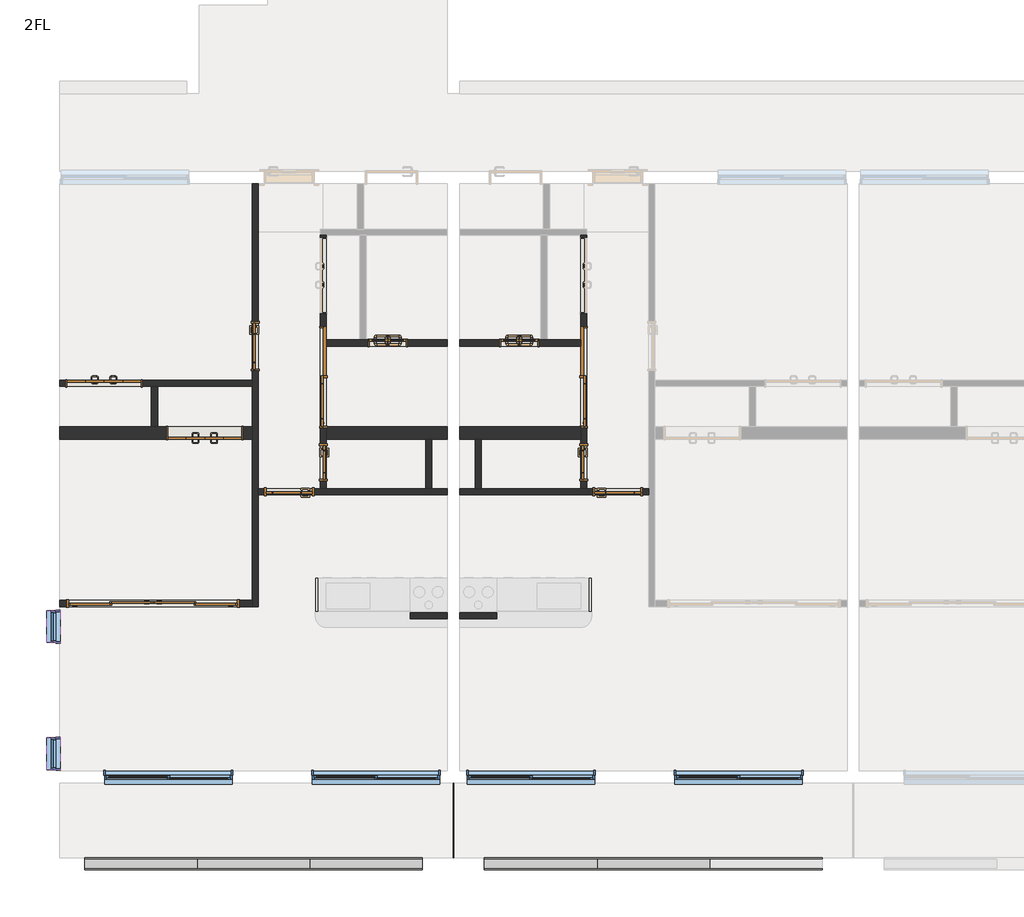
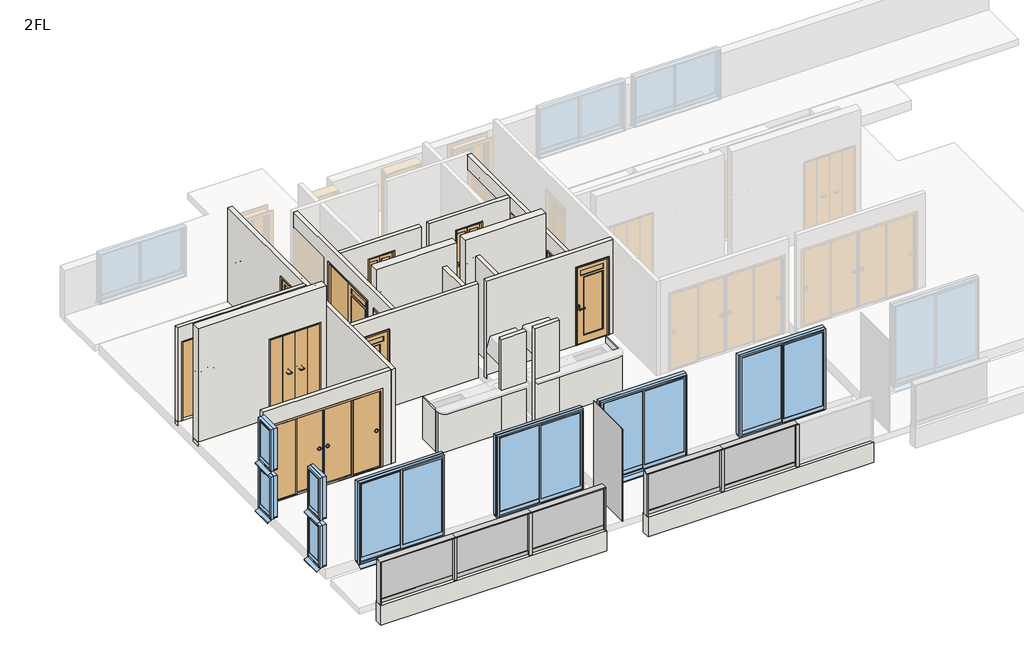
# One storey, part 1 of 3: 23 walls, 12 doors, 12 members, 8 windows, 6 plates.
"""IFC4 building model written with IfcOpenShell, lengths in millimetres."""

from ifc_helpers import new_model, si_unit, frame, origin, place, context, project, spatial, polyline, outline, extrude, faceted_brep, transform, mapped, element, save
from components import w1200h2000_6a144d60, w1200h2000_98cacc9b, w1600h2000_4c3c234a, w1600h2000_ca690e72, w2800h2000_670b855b, w600h2000_7f2747f4, w600h2000_6a266bef, w600h2000_94bb9c3c, w600h2000_8ea70a65, w800h2000_13e9f519, w800h2000_ccb03061, member_25x150_3f8205e2, member_25x150_f694351b, member_70x150_851c8a9b, plate_9f48129f, plate_365944b3, plate_cef4847d, window_2000x2000_f1ff98da, window_450x1000_e0a5e2da

model = new_model("IFC4")

# Units and contexts
model_context = context("Model", 3, world=origin())
ifc_project = project(units=[si_unit("LENGTHUNIT", "METRE", prefix="MILLI")], contexts=[model_context])

# Site, building, storey
site = spatial("IfcSite", under=ifc_project)
building = spatial("IfcBuilding", under=site)
storey = spatial("IfcBuildingStorey", under=building, Name="2FL", Elevation=4000.0)

# Doors
placement = place(None, origin())
w1200h2000_shape = w1200h2000_6a144d60(model_context)
element("IfcDoor", 1, ObjectType="木製折戸 : w1200h2000", at=placement, inside=storey, context=model_context, shape_type="MappedRepresentation", body=[
    mapped(w1200h2000_shape, transform((-10366.2187246, -9020.1171638, 4100.0), x_axis=(1.0, 0.0, 0.0), y_axis=(0.0, 1.0, 0.0), z_axis=(0.0, 0.0, 1.0))),
])
w1200h2000_2_shape = w1200h2000_98cacc9b(model_context)
element("IfcDoor", 2, ObjectType="木製折戸 : w1200h2000", at=placement, inside=storey, context=model_context, shape_type="MappedRepresentation", body=[
    mapped(w1200h2000_2_shape, transform((-8741.2187246, -9820.1171638, 4100.0), x_axis=(-1.0, 0.0, 0.0), y_axis=(0.0, -1.0, 0.0), z_axis=(0.0, 0.0, 1.0))),
])
w1600h2000_shape = w1600h2000_4c3c234a(model_context)
element("IfcDoor", 3, ObjectType="片引戸CL2017 : w1600h2000", at=placement, inside=storey, context=model_context, shape_type="MappedRepresentation", body=[
    mapped(w1600h2000_shape, transform((-6828.7187246, -8920.1171638, 4100.0), x_axis=(0.0, -1.0, 0.0), y_axis=(1.0, 0.0, 0.0), z_axis=(0.0, 0.0, 1.0))),
])
w1600h2000_2_shape = w1600h2000_ca690e72(model_context)
element("IfcDoor", 4, ObjectType="片引戸CL2017 : w1600h2000", at=placement, inside=storey, context=model_context, shape_type="MappedRepresentation", body=[
    mapped(w1600h2000_2_shape, transform((-2628.7187246, -8920.1171638, 4100.0), x_axis=(0.0, -1.0, 0.0), y_axis=(1.0, 0.0, 0.0), z_axis=(0.0, 0.0, 1.0))),
])
w2800h2000_shape = w2800h2000_670b855b(model_context)
element("IfcDoor", 5, ObjectType="引違い 4 枚 2 溝_襖 : w2800h2000", at=placement, inside=storey, context=model_context, shape_type="MappedRepresentation", body=[
    mapped(w2800h2000_shape, transform((-9584.2542286, -12570.1171638, 4100.0), x_axis=(-1.0, 0.0, 0.0), y_axis=(0.0, -1.0, 0.0), z_axis=(0.0, 0.0, 1.0))),
])
w600h2000_shape = w600h2000_7f2747f4(model_context)
element("IfcDoor", 6, ObjectType="片開戸CL2058 : w600h2000", at=placement, inside=storey, context=model_context, shape_type="MappedRepresentation", body=[
    mapped(w600h2000_shape, transform((-6828.7187246, -10295.1171638, 4100.0), x_axis=(0.0, -1.0, 0.0), y_axis=(1.0, 0.0, 0.0), z_axis=(0.0, 0.0, 1.0))),
])
w600h2000_2_shape = w600h2000_6a266bef(model_context)
element("IfcDoor", 7, ObjectType="浴室折戸 : w600h2000", at=placement, inside=storey, context=model_context, shape_type="MappedRepresentation", body=[
    mapped(w600h2000_2_shape, transform((-5788.7187246, -8370.1171638, 4100.0), x_axis=(1.0, 0.0, 0.0), y_axis=(0.0, 1.0, 0.0), z_axis=(0.0, 0.0, 1.0))),
])
w600h2000_3_shape = w600h2000_94bb9c3c(model_context)
element("IfcDoor", 8, ObjectType="浴室折戸 : w600h2000", at=placement, inside=storey, context=model_context, shape_type="MappedRepresentation", body=[
    mapped(w600h2000_3_shape, transform((-3668.7187246, -8370.1171638, 4100.0), x_axis=(-1.0, 0.0, 0.0), y_axis=(0.0, -1.0, 0.0), z_axis=(0.0, 0.0, 1.0))),
])
w600h2000_4_shape = w600h2000_8ea70a65(model_context)
element("IfcDoor", 9, ObjectType="片開戸CL2058 : w600h2000", at=placement, inside=storey, context=model_context, shape_type="MappedRepresentation", body=[
    mapped(w600h2000_4_shape, transform((-2628.7187246, -10295.1171638, 4100.0), x_axis=(0.0, -1.0, 0.0), y_axis=(1.0, 0.0, 0.0), z_axis=(0.0, 0.0, 1.0))),
])
w800h2000_shape = w800h2000_13e9f519(model_context)
element("IfcDoor", 10, ObjectType="片開戸CL2058 : w800h2000", at=placement, inside=storey, context=model_context, shape_type="MappedRepresentation", body=[
    mapped(w800h2000_shape, transform((-7928.7187246, -8420.1171638, 4100.0), x_axis=(0.0, -1.0, 0.0), y_axis=(1.0, 0.0, 0.0), z_axis=(0.0, 0.0, 1.0))),
])
element("IfcDoor", 11, ObjectType="片開戸CL2058 : w800h2000", at=placement, inside=storey, context=model_context, shape_type="MappedRepresentation", body=[
    mapped(w800h2000_shape, transform((-2078.7187246, -10770.1171638, 4100.0), x_axis=(1.0, 0.0, 0.0), y_axis=(0.0, 1.0, 0.0), z_axis=(0.0, 0.0, 1.0))),
])
w800h2000_2_shape = w800h2000_ccb03061(model_context)
element("IfcDoor", 12, ObjectType="片開戸CL2058 : w800h2000", at=placement, inside=storey, context=model_context, shape_type="MappedRepresentation", body=[
    mapped(w800h2000_2_shape, transform((-7378.7187246, -10770.1171638, 4100.0), x_axis=(-1.0, 0.0, 0.0), y_axis=(0.0, -1.0, 0.0), z_axis=(0.0, 0.0, 1.0))),
])

# Members
member_25x150_shape = member_25x150_3f8205e2(model_context)
element("IfcMember", 13, ObjectType="長方形のマリオン : 25x150", at=placement, inside=storey, context=model_context, shape_type="MappedRepresentation", body=[
    mapped(member_25x150_shape, transform((-5228.7187246, -16770.1171638, 4000.0), x_axis=(1.0, 0.0, 0.0), y_axis=(0.0, -1.0, 0.0), z_axis=(0.0, 0.0, -1.0))),
])
element("IfcMember", 14, ObjectType="長方形のマリオン : 25x150", at=placement, inside=storey, context=model_context, shape_type="MappedRepresentation", body=[
    mapped(member_25x150_shape, transform((-10678.7187246, -16770.1171638, 5075.0), x_axis=(-1.0, 0.0, 0.0), y_axis=(0.0, -1.0, 0.0), z_axis=(0.0, 0.0, 1.0))),
])
element("IfcMember", 15, ObjectType="長方形のマリオン : 25x150", at=placement, inside=storey, context=model_context, shape_type="MappedRepresentation", body=[
    mapped(member_25x150_shape, transform((-4228.7187246, -16770.1171638, 5075.0), x_axis=(-1.0, 0.0, 0.0), y_axis=(0.0, -1.0, 0.0), z_axis=(0.0, 0.0, 1.0))),
])
member_25x150_2_shape = member_25x150_f694351b(model_context)
element("IfcMember", 16, ObjectType="長方形のマリオン : 25x150", at=placement, inside=storey, context=model_context, shape_type="MappedRepresentation", body=[
    mapped(member_25x150_2_shape, transform((-5228.7187246, -16770.1171638, 5100.0), x_axis=(0.0, 0.0, 1.0), y_axis=(0.0, -1.0, 0.0), z_axis=(1.0, 0.0, 0.0))),
])
element("IfcMember", 17, ObjectType="長方形のマリオン : 25x150", at=placement, inside=storey, context=model_context, shape_type="MappedRepresentation", body=[
    mapped(member_25x150_2_shape, transform((-8862.052058, -16770.1171638, 5100.0), x_axis=(0.0, 0.0, 1.0), y_axis=(0.0, -1.0, 0.0), z_axis=(1.0, 0.0, 0.0))),
])
element("IfcMember", 18, ObjectType="長方形のマリオン : 25x150", at=placement, inside=storey, context=model_context, shape_type="MappedRepresentation", body=[
    mapped(member_25x150_2_shape, transform((-2412.052058, -16770.1171638, 5100.0), x_axis=(0.0, 0.0, 1.0), y_axis=(0.0, -1.0, 0.0), z_axis=(1.0, 0.0, 0.0))),
])
element("IfcMember", 19, ObjectType="長方形のマリオン : 25x150", at=placement, inside=storey, context=model_context, shape_type="MappedRepresentation", body=[
    mapped(member_25x150_2_shape, transform((-7045.3853913, -16770.1171638, 5100.0), x_axis=(0.0, 0.0, 1.0), y_axis=(0.0, -1.0, 0.0), z_axis=(1.0, 0.0, 0.0))),
])
element("IfcMember", 20, ObjectType="長方形のマリオン : 25x150", at=placement, inside=storey, context=model_context, shape_type="MappedRepresentation", body=[
    mapped(member_25x150_2_shape, transform((-595.3853913, -16770.1171638, 5100.0), x_axis=(0.0, 0.0, 1.0), y_axis=(0.0, -1.0, 0.0), z_axis=(1.0, 0.0, 0.0))),
])
member_70x150_shape = member_70x150_851c8a9b(model_context)
element("IfcMember", 21, ObjectType="長方形のマリオン : 70x150", at=placement, inside=storey, context=model_context, shape_type="MappedRepresentation", body=[
    mapped(member_70x150_shape, transform((-8862.052058, -16770.1171638, 4000.0), x_axis=(1.0, 0.0, 0.0), y_axis=(0.0, -1.0, 0.0), z_axis=(0.0, 0.0, -1.0))),
])
element("IfcMember", 22, ObjectType="長方形のマリオン : 70x150", at=placement, inside=storey, context=model_context, shape_type="MappedRepresentation", body=[
    mapped(member_70x150_shape, transform((-7045.3853913, -16770.1171638, 4000.0), x_axis=(1.0, 0.0, 0.0), y_axis=(0.0, -1.0, 0.0), z_axis=(0.0, 0.0, -1.0))),
])
element("IfcMember", 23, ObjectType="長方形のマリオン : 70x150", at=placement, inside=storey, context=model_context, shape_type="MappedRepresentation", body=[
    mapped(member_70x150_shape, transform((-2412.052058, -16770.1171638, 4000.0), x_axis=(1.0, 0.0, 0.0), y_axis=(0.0, -1.0, 0.0), z_axis=(0.0, 0.0, -1.0))),
])
element("IfcMember", 24, ObjectType="長方形のマリオン : 70x150", at=placement, inside=storey, context=model_context, shape_type="MappedRepresentation", body=[
    mapped(member_70x150_shape, transform((-595.3853913, -16770.1171638, 4000.0), x_axis=(1.0, 0.0, 0.0), y_axis=(0.0, -1.0, 0.0), z_axis=(0.0, 0.0, -1.0))),
])

# Plates
plate_shape = plate_9f48129f(model_context)
element("IfcPlate", 25, ObjectType="r パネル FIX 下框付 : 框 H100", at=placement, inside=storey, context=model_context, shape_type="MappedRepresentation", body=[
    mapped(plate_shape, transform((-9775.3853913, -16770.1171638, 4000.0), x_axis=(1.0, 0.0, 0.0), y_axis=(0.0, 1.0, 0.0), z_axis=(0.0, 0.0, 1.0))),
])
element("IfcPlate", 26, ObjectType="r パネル FIX 下框付 : 框 H100", at=placement, inside=storey, context=model_context, shape_type="MappedRepresentation", body=[
    mapped(plate_shape, transform((-6132.052058, -16770.1171638, 4000.0), x_axis=(1.0, 0.0, 0.0), y_axis=(0.0, 1.0, 0.0), z_axis=(0.0, 0.0, 1.0))),
])
element("IfcPlate", 27, ObjectType="r パネル FIX 下框付 : 框 H100", at=placement, inside=storey, context=model_context, shape_type="MappedRepresentation", body=[
    mapped(plate_shape, transform((-3325.3853913, -16770.1171638, 4000.0), x_axis=(1.0, 0.0, 0.0), y_axis=(0.0, 1.0, 0.0), z_axis=(0.0, 0.0, 1.0))),
])
plate_2_shape = plate_365944b3(model_context)
element("IfcPlate", 28, ObjectType="r パネル FIX 下框付 : 框 H100", at=placement, inside=storey, context=model_context, shape_type="MappedRepresentation", body=[
    mapped(plate_2_shape, transform((-7953.7187246, -16770.1171638, 4000.0), x_axis=(1.0, 0.0, 0.0), y_axis=(0.0, 1.0, 0.0), z_axis=(0.0, 0.0, 1.0))),
])
element("IfcPlate", 29, ObjectType="r パネル FIX 下框付 : 框 H100", at=placement, inside=storey, context=model_context, shape_type="MappedRepresentation", body=[
    mapped(plate_2_shape, transform((-1503.7187246, -16770.1171638, 4000.0), x_axis=(1.0, 0.0, 0.0), y_axis=(0.0, 1.0, 0.0), z_axis=(0.0, 0.0, 1.0))),
])
plate_3_shape = plate_cef4847d(model_context)
element("IfcPlate", 30, ObjectType="システム パネル : 標準", at=placement, inside=storey, context=model_context, shape_type="MappedRepresentation", body=[
    mapped(plate_3_shape, transform((-4728.7187246, -16070.1171638, 3950.0), x_axis=(0.0, -1.0, 0.0), y_axis=(1.0, 0.0, 0.0), z_axis=(0.0, 0.0, 1.0))),
])

# Walls
element("IfcWall", 31, ObjectType="(R)RC200", at=placement, inside=storey, context=model_context, shape_type="Brep", body=[
    faceted_brep([(-11078.7187246, -9920.1171638, 4000.0), (-7978.7187246, -9920.1171638, 4000.0), (-7978.7187246, -9920.1171638, 7000.0), (-11078.7187246, -9920.1171638, 7000.0), (-9361.2187246, -9920.1171638, 6120.0), (-8121.2187246, -9920.1171638, 6120.0), (-8121.2187246, -9920.1171638, 4100.0), (-9361.2187246, -9920.1171638, 4100.0), (-11078.7187246, -9720.1171638, 4000.0), (-11078.7187246, -9720.1171638, 7000.0), (-7978.7187246, -9720.1171638, 7000.0), (-7978.7187246, -9720.1171638, 4000.0), (-9503.7187246, -9720.1171638, 4000.0), (-9603.7187246, -9720.1171638, 4000.0), (-9361.2187246, -9720.1171638, 6120.0), (-9361.2187246, -9720.1171638, 4100.0), (-8121.2187246, -9720.1171638, 4100.0), (-8121.2187246, -9720.1171638, 6120.0)], [[[0, 1, 2, 3], [4, 5, 6, 7]], [[8, 9, 10, 11, 12, 13], [14, 15, 16, 17]], [[1, 0, 8, 13, 12, 11]], [[3, 2, 10, 9]], [[2, 1, 11, 10]], [[15, 14, 4, 7]], [[16, 15, 7, 6]], [[17, 16, 6, 5]], [[14, 17, 5, 4]], [[0, 3, 9, 8]]]),
])
element("IfcWall", 32, ObjectType="(R)RC200", at=placement, inside=storey, context=model_context, shape_type="Brep", body=[
    faceted_brep([(-6778.7187246, -9920.1171638, 4000.0), (-5178.7187246, -9920.1171638, 4000.0), (-5078.7187246, -9920.1171638, 4000.0), (-4828.7187246, -9920.1171638, 4000.0), (-4828.7187246, -9920.1171638, 7000.0), (-6778.7187246, -9920.1171638, 7000.0), (-6778.7187246, -9720.1171638, 4000.0), (-6778.7187246, -9720.1171638, 7000.0), (-4828.7187246, -9720.1171638, 7000.0), (-4828.7187246, -9720.1171638, 4000.0)], [[[0, 1, 2, 3, 4, 5]], [[6, 7, 8, 9]], [[3, 2, 1, 0, 6, 9]], [[5, 4, 8, 7]], [[0, 5, 7, 6]], [[4, 3, 9, 8]]]),
])
element("IfcWall", 33, ObjectType="(R)RC200", at=placement, inside=storey, context=model_context, shape_type="Brep", body=[
    faceted_brep([(-2678.7187246, -9720.1171638, 4000.0), (-4628.7187246, -9720.1171638, 4000.0), (-4628.7187246, -9720.1171638, 7000.0), (-2678.7187246, -9720.1171638, 7000.0), (-2678.7187246, -9920.1171638, 4000.0), (-2678.7187246, -9920.1171638, 7000.0), (-4628.7187246, -9920.1171638, 7000.0), (-4628.7187246, -9920.1171638, 4000.0), (-4378.7187246, -9920.1171638, 4000.0), (-4278.7187246, -9920.1171638, 4000.0)], [[[0, 1, 2, 3]], [[4, 5, 6, 7, 8, 9]], [[1, 0, 4, 9, 8, 7]], [[3, 2, 6, 5]], [[0, 3, 5, 4]], [[2, 1, 7, 6]]]),
])
element("IfcWall", 34, ObjectType="(R)RC200", at=placement, inside=storey, context=model_context, shape_type="SweptSolid", body=[
    extrude(outline(polyline([(-5228.7187246, -16870.1171638), (-10678.7187246, -16870.1171638), (-10678.7187246, -16670.1171638), (-5228.7187246, -16670.1171638), (-5228.7187246, -16870.1171638)])), frame((0.0, 0.0, 3500.0), z_axis=(0.0, 0.0, 1.0), x_axis=(1.0, 0.0, 0.0)), (0.0, 0.0, 1.0), 500.0),
])
element("IfcWall", 35, ObjectType="(R)RC200", at=placement, inside=storey, context=model_context, shape_type="SweptSolid", body=[
    extrude(outline(polyline([(1221.2812754, -16870.1171638), (-4228.7187246, -16870.1171638), (-4228.7187246, -16670.1171638), (1221.2812754, -16670.1171638), (1221.2812754, -16870.1171638)])), frame((0.0, 0.0, 3500.0), z_axis=(0.0, 0.0, 1.0), x_axis=(1.0, 0.0, 0.0)), (0.0, 0.0, 1.0), 500.0),
])
element("IfcWall", 36, ObjectType="(F)30", at=placement, inside=storey, context=model_context, shape_type="SweptSolid", body=[
    extrude(outline(polyline([(-6951.1124404, -12720.1171638), (-6951.1124404, -12165.1171638), (-6921.1124404, -12165.1171638), (-6921.1124404, -12720.1171638), (-6951.1124404, -12720.1171638)])), frame((0.0, 0.0, 4100.0), z_axis=(0.0, 0.0, 1.0), x_axis=(1.0, 0.0, 0.0)), (0.0, 0.0, 1.0), 1060.0),
])
element("IfcWall", 37, ObjectType="(F)30", at=placement, inside=storey, context=model_context, shape_type="SweptSolid", body=[
    extrude(outline(polyline([(-2536.3250089, -12720.1171638), (-2536.3250089, -12165.1171638), (-2506.3250089, -12165.1171638), (-2506.3250089, -12720.1171638), (-2536.3250089, -12720.1171638)])), frame((0.0, 0.0, 4100.0), z_axis=(0.0, 0.0, 1.0), x_axis=(1.0, 0.0, 0.0)), (0.0, 0.0, 1.0), 1060.0),
])
element("IfcWall", 38, ObjectType="(L1)LGS100", at=placement, inside=storey, context=model_context, shape_type="Brep", body=[
    faceted_brep([(-11078.7187246, -9070.1171638, 4000.0), (-9603.7187246, -9070.1171638, 4000.0), (-9503.7187246, -9070.1171638, 4000.0), (-7978.7187246, -9070.1171638, 4000.0), (-7978.7187246, -9070.1171638, 6500.0), (-9503.7187246, -9070.1171638, 6500.0), (-9603.7187246, -9070.1171638, 6500.0), (-11078.7187246, -9070.1171638, 6500.0), (-9746.2187246, -9070.1171638, 6120.0), (-9746.2187246, -9070.1171638, 4100.0), (-10986.2187246, -9070.1171638, 4100.0), (-10986.2187246, -9070.1171638, 6120.0), (-7978.7187246, -8970.1171638, 4000.0), (-11078.7187246, -8970.1171638, 4000.0), (-11078.7187246, -8970.1171638, 6500.0), (-7978.7187246, -8970.1171638, 6500.0), (-9746.2187246, -8970.1171638, 4100.0), (-9746.2187246, -8970.1171638, 6120.0), (-10986.2187246, -8970.1171638, 6120.0), (-10986.2187246, -8970.1171638, 4100.0)], [[[0, 1, 2, 3, 4, 5, 6, 7], [8, 9, 10, 11]], [[12, 13, 14, 15], [16, 17, 18, 19]], [[3, 2, 1, 0, 13, 12]], [[7, 6, 5, 4, 15, 14]], [[4, 3, 12, 15]], [[8, 17, 16, 9]], [[9, 16, 19, 10]], [[17, 8, 11, 18]], [[18, 11, 10, 19]], [[0, 7, 14, 13]]]),
])
element("IfcWall", 39, ObjectType="(L1)LGS100", at=placement, inside=storey, context=model_context, shape_type="SweptSolid", body=[
    extrude(outline(polyline([(-9503.7187246, -9070.1171638), (-9503.7187246, -9720.1171638), (-9603.7187246, -9720.1171638), (-9603.7187246, -9070.1171638), (-9503.7187246, -9070.1171638)])), frame((0.0, 0.0, 4000.0), z_axis=(0.0, 0.0, 1.0), x_axis=(1.0, 0.0, 0.0)), (0.0, 0.0, 1.0), 2500.0),
])
element("IfcWall", 40, ObjectType="(L1)LGS100", at=placement, inside=storey, context=model_context, shape_type="Brep", body=[
    faceted_brep([(-7878.7187246, -12620.1171638, 4000.0), (-7878.7187246, -10820.1171638, 4000.0), (-7878.7187246, -10720.1171638, 4000.0), (-7878.7187246, -5800.1171638, 4000.0), (-7878.7187246, -5800.1171638, 6500.0), (-7878.7187246, -10720.1171638, 6500.0), (-7878.7187246, -10820.1171638, 6500.0), (-7878.7187246, -12620.1171638, 6500.0), (-7878.7187246, -8820.1171638, 4100.0), (-7878.7187246, -8820.1171638, 6100.0), (-7878.7187246, -8020.1171638, 6100.0), (-7878.7187246, -8020.1171638, 4100.0), (-7978.7187246, -12620.1171638, 4000.0), (-7978.7187246, -12620.1171638, 6500.0), (-7978.7187246, -12520.1171638, 6500.0), (-7978.7187246, -9070.1171638, 6500.0), (-7978.7187246, -8970.1171638, 6500.0), (-7978.7187246, -5800.1171638, 6500.0), (-7978.7187246, -5800.1171638, 4000.0), (-7978.7187246, -8970.1171638, 4000.0), (-7978.7187246, -9070.1171638, 4000.0), (-7978.7187246, -9720.1171638, 4000.0), (-7978.7187246, -9920.1171638, 4000.0), (-7978.7187246, -12520.1171638, 4000.0), (-7978.7187246, -8820.1171638, 4100.0), (-7978.7187246, -8020.1171638, 4100.0), (-7978.7187246, -8020.1171638, 6100.0), (-7978.7187246, -8820.1171638, 6100.0)], [[[0, 1, 2, 3, 4, 5, 6, 7], [8, 9, 10, 11]], [[12, 13, 14, 15, 16, 17, 18, 19, 20, 21, 22, 23], [24, 25, 26, 27]], [[3, 2, 1, 0, 12, 23, 22, 21, 20, 19, 18]], [[7, 6, 5, 4, 17, 16, 15, 14, 13]], [[0, 7, 13, 12]], [[9, 8, 24, 27]], [[10, 9, 27, 26]], [[11, 10, 26, 25]], [[8, 11, 25, 24]], [[4, 3, 18, 17]]]),
])
element("IfcWall", 41, ObjectType="(L1)LGS100", at=placement, inside=storey, context=model_context, shape_type="Brep", body=[
    faceted_brep([(-6778.7187246, -8420.1171638, 4000.0), (-4828.7187246, -8420.1171638, 4000.0), (-4828.7187246, -8420.1171638, 6500.0), (-6778.7187246, -8420.1171638, 6500.0), (-5468.7187246, -8420.1171638, 6120.0), (-5468.7187246, -8420.1171638, 4100.0), (-6108.7187246, -8420.1171638, 4100.0), (-6108.7187246, -8420.1171638, 6120.0), (-6778.7187246, -8320.1171638, 4000.0), (-6778.7187246, -8320.1171638, 6500.0), (-6238.7187246, -8320.1171638, 6500.0), (-6138.7187246, -8320.1171638, 6500.0), (-4828.7187246, -8320.1171638, 6500.0), (-4828.7187246, -8320.1171638, 4000.0), (-6138.7187246, -8320.1171638, 4000.0), (-6238.7187246, -8320.1171638, 4000.0), (-5468.7187246, -8320.1171638, 6120.0), (-6108.7187246, -8320.1171638, 6120.0), (-6108.7187246, -8320.1171638, 4100.0), (-5468.7187246, -8320.1171638, 4100.0)], [[[0, 1, 2, 3], [4, 5, 6, 7]], [[8, 9, 10, 11, 12, 13, 14, 15], [16, 17, 18, 19]], [[1, 0, 8, 15, 14, 13]], [[3, 2, 12, 11, 10, 9]], [[0, 3, 9, 8]], [[5, 4, 16, 19]], [[6, 5, 19, 18]], [[7, 6, 18, 17]], [[4, 7, 17, 16]], [[2, 1, 13, 12]]]),
])
element("IfcWall", 42, ObjectType="(L1)LGS100", at=placement, inside=storey, context=model_context, shape_type="Brep", body=[
    faceted_brep([(-6778.7187246, -10720.1171638, 4000.0), (-6778.7187246, -9920.1171638, 4000.0), (-6778.7187246, -9720.1171638, 4000.0), (-6778.7187246, -8420.1171638, 4000.0), (-6778.7187246, -8320.1171638, 4000.0), (-6778.7187246, -6630.1171638, 4000.0), (-6778.7187246, -6630.1171638, 6500.0), (-6778.7187246, -8320.1171638, 6500.0), (-6778.7187246, -8420.1171638, 6500.0), (-6778.7187246, -10720.1171638, 6500.0), (-6778.7187246, -10595.1171638, 4100.0), (-6778.7187246, -10595.1171638, 6100.0), (-6778.7187246, -9995.1171638, 6100.0), (-6778.7187246, -9995.1171638, 4100.0), (-6778.7187246, -6660.1171638, 4100.0), (-6778.7187246, -7900.1171638, 4100.0), (-6778.7187246, -7900.1171638, 6120.0), (-6778.7187246, -6660.1171638, 6120.0), (-6778.7187246, -9745.1171638, 4100.0), (-6778.7187246, -9745.1171638, 6140.0), (-6778.7187246, -8095.1171638, 6140.0), (-6778.7187246, -8095.1171638, 4100.0), (-6878.7187246, -6630.1171638, 4000.0), (-6878.7187246, -10720.1171638, 4000.0), (-6878.7187246, -10720.1171638, 6500.0), (-6878.7187246, -6630.1171638, 6500.0), (-6878.7187246, -10595.1171638, 4100.0), (-6878.7187246, -9995.1171638, 4100.0), (-6878.7187246, -9995.1171638, 6100.0), (-6878.7187246, -10595.1171638, 6100.0), (-6878.7187246, -7900.1171638, 4100.0), (-6878.7187246, -6660.1171638, 4100.0), (-6878.7187246, -6660.1171638, 6120.0), (-6878.7187246, -7900.1171638, 6120.0), (-6878.7187246, -9745.1171638, 4100.0), (-6878.7187246, -8095.1171638, 4100.0), (-6878.7187246, -8095.1171638, 6140.0), (-6878.7187246, -9745.1171638, 6140.0)], [[[0, 1, 2, 3, 4, 5, 6, 7, 8, 9], [10, 11, 12, 13], [14, 15, 16, 17], [18, 19, 20, 21]], [[22, 23, 24, 25], [26, 27, 28, 29], [30, 31, 32, 33], [34, 35, 36, 37]], [[5, 4, 3, 2, 1, 0, 23, 22]], [[9, 8, 7, 6, 25, 24]], [[0, 9, 24, 23]], [[11, 10, 26, 29]], [[12, 11, 29, 28]], [[13, 12, 28, 27]], [[10, 13, 27, 26]], [[14, 31, 30, 15]], [[15, 30, 33, 16]], [[16, 33, 32, 17]], [[19, 18, 34, 37]], [[20, 19, 37, 36]], [[21, 20, 36, 35]], [[18, 21, 35, 34]], [[31, 14, 17, 32]], [[6, 5, 22, 25]]]),
])
element("IfcWall", 43, ObjectType="(L1)LGS100", at=placement, inside=storey, context=model_context, shape_type="SweptSolid", body=[
    extrude(outline(polyline([(-5078.7187246, -9920.1171638), (-5078.7187246, -10720.1171638), (-5178.7187246, -10720.1171638), (-5178.7187246, -9920.1171638), (-5078.7187246, -9920.1171638)])), frame((0.0, 0.0, 4000.0), z_axis=(0.0, 0.0, 1.0), x_axis=(1.0, 0.0, 0.0)), (0.0, 0.0, 1.0), 2500.0),
])
element("IfcWall", 44, ObjectType="(L1)LGS100", at=placement, inside=storey, context=model_context, shape_type="Brep", body=[
    faceted_brep([(-7878.7187246, -10820.1171638, 4000.0), (-4828.7187246, -10820.1171638, 4000.0), (-4828.7187246, -10820.1171638, 6500.0), (-7878.7187246, -10820.1171638, 6500.0), (-7778.7187246, -10820.1171638, 4100.0), (-7778.7187246, -10820.1171638, 6100.0), (-6978.7187246, -10820.1171638, 6100.0), (-6978.7187246, -10820.1171638, 4100.0), (-4828.7187246, -10720.1171638, 4000.0), (-5078.7187246, -10720.1171638, 4000.0), (-5178.7187246, -10720.1171638, 4000.0), (-6778.7187246, -10720.1171638, 4000.0), (-6878.7187246, -10720.1171638, 4000.0), (-7878.7187246, -10720.1171638, 4000.0), (-7878.7187246, -10720.1171638, 6500.0), (-6878.7187246, -10720.1171638, 6500.0), (-6778.7187246, -10720.1171638, 6500.0), (-5178.7187246, -10720.1171638, 6500.0), (-5078.7187246, -10720.1171638, 6500.0), (-4828.7187246, -10720.1171638, 6500.0), (-7778.7187246, -10720.1171638, 6100.0), (-7778.7187246, -10720.1171638, 4100.0), (-6978.7187246, -10720.1171638, 4100.0), (-6978.7187246, -10720.1171638, 6100.0)], [[[0, 1, 2, 3], [4, 5, 6, 7]], [[8, 9, 10, 11, 12, 13, 14, 15, 16, 17, 18, 19], [20, 21, 22, 23]], [[1, 0, 13, 12, 11, 10, 9, 8]], [[3, 2, 19, 18, 17, 16, 15, 14]], [[0, 3, 14, 13]], [[4, 21, 20, 5]], [[5, 20, 23, 6]], [[6, 23, 22, 7]], [[21, 4, 7, 22]], [[2, 1, 8, 19]]]),
])
element("IfcWall", 45, ObjectType="(L1)LGS100", at=placement, inside=storey, context=model_context, shape_type="SweptSolid", body=[
    extrude(outline(polyline([(4000.0, -11078.7187246), (4000.0, -7978.7187246), (6500.0, -7978.7187246), (6500.0, -11078.7187246), (4000.0, -11078.7187246)]), holes=[polyline([(6100.0, -10978.7187246), (6100.0, -8178.7187246), (4100.0, -8178.7187246), (4100.0, -10978.7187246), (6100.0, -10978.7187246)])]), frame((0.0, -12620.1171638, 0.0), z_axis=(0.0, 1.0, 0.0), x_axis=(0.0, 0.0, 1.0)), (0.0, 0.0, 1.0), 100.0),
])
element("IfcWall", 46, ObjectType="(L1)LGS100", at=placement, inside=storey, context=model_context, shape_type="Brep", body=[
    faceted_brep([(-2678.7187246, -8320.1171638, 4000.0), (-3218.7187246, -8320.1171638, 4000.0), (-3318.7187246, -8320.1171638, 4000.0), (-4628.7187246, -8320.1171638, 4000.0), (-4628.7187246, -8320.1171638, 6500.0), (-3318.7187246, -8320.1171638, 6500.0), (-3218.7187246, -8320.1171638, 6500.0), (-2678.7187246, -8320.1171638, 6500.0), (-3988.7187246, -8320.1171638, 6120.0), (-3988.7187246, -8320.1171638, 4100.0), (-3348.7187246, -8320.1171638, 4100.0), (-3348.7187246, -8320.1171638, 6120.0), (-2678.7187246, -8420.1171638, 4000.0), (-2678.7187246, -8420.1171638, 6500.0), (-4628.7187246, -8420.1171638, 6500.0), (-4628.7187246, -8420.1171638, 4000.0), (-3988.7187246, -8420.1171638, 6120.0), (-3348.7187246, -8420.1171638, 6120.0), (-3348.7187246, -8420.1171638, 4100.0), (-3988.7187246, -8420.1171638, 4100.0)], [[[0, 1, 2, 3, 4, 5, 6, 7], [8, 9, 10, 11]], [[12, 13, 14, 15], [16, 17, 18, 19]], [[3, 2, 1, 0, 12, 15]], [[7, 6, 5, 4, 14, 13]], [[0, 7, 13, 12]], [[9, 8, 16, 19]], [[10, 9, 19, 18]], [[11, 10, 18, 17]], [[8, 11, 17, 16]], [[4, 3, 15, 14]]]),
])
element("IfcWall", 47, ObjectType="(L1)LGS100", at=placement, inside=storey, context=model_context, shape_type="Brep", body=[
    faceted_brep([(-2578.7187246, -10720.1171638, 4000.0), (-2578.7187246, -6630.1171638, 4000.0), (-2578.7187246, -6630.1171638, 6500.0), (-2578.7187246, -10720.1171638, 6500.0), (-2578.7187246, -10595.1171638, 4100.0), (-2578.7187246, -10595.1171638, 6100.0), (-2578.7187246, -9995.1171638, 6100.0), (-2578.7187246, -9995.1171638, 4100.0), (-2578.7187246, -6660.1171638, 4100.0), (-2578.7187246, -7900.1171638, 4100.0), (-2578.7187246, -7900.1171638, 6120.0), (-2578.7187246, -6660.1171638, 6120.0), (-2578.7187246, -9745.1171638, 4100.0), (-2578.7187246, -9745.1171638, 6140.0), (-2578.7187246, -8095.1171638, 6140.0), (-2578.7187246, -8095.1171638, 4100.0), (-2678.7187246, -6630.1171638, 4000.0), (-2678.7187246, -8320.1171638, 4000.0), (-2678.7187246, -8420.1171638, 4000.0), (-2678.7187246, -9720.1171638, 4000.0), (-2678.7187246, -9920.1171638, 4000.0), (-2678.7187246, -10720.1171638, 4000.0), (-2678.7187246, -10720.1171638, 6500.0), (-2678.7187246, -8420.1171638, 6500.0), (-2678.7187246, -8320.1171638, 6500.0), (-2678.7187246, -6630.1171638, 6500.0), (-2678.7187246, -10595.1171638, 4100.0), (-2678.7187246, -9995.1171638, 4100.0), (-2678.7187246, -9995.1171638, 6100.0), (-2678.7187246, -10595.1171638, 6100.0), (-2678.7187246, -7900.1171638, 4100.0), (-2678.7187246, -6660.1171638, 4100.0), (-2678.7187246, -6660.1171638, 6120.0), (-2678.7187246, -7900.1171638, 6120.0), (-2678.7187246, -9745.1171638, 4100.0), (-2678.7187246, -8095.1171638, 4100.0), (-2678.7187246, -8095.1171638, 6140.0), (-2678.7187246, -9745.1171638, 6140.0)], [[[0, 1, 2, 3], [4, 5, 6, 7], [8, 9, 10, 11], [12, 13, 14, 15]], [[16, 17, 18, 19, 20, 21, 22, 23, 24, 25], [26, 27, 28, 29], [30, 31, 32, 33], [34, 35, 36, 37]], [[1, 0, 21, 20, 19, 18, 17, 16]], [[3, 2, 25, 24, 23, 22]], [[0, 3, 22, 21]], [[5, 4, 26, 29]], [[6, 5, 29, 28]], [[7, 6, 28, 27]], [[4, 7, 27, 26]], [[8, 31, 30, 9]], [[9, 30, 33, 10]], [[10, 33, 32, 11]], [[13, 12, 34, 37]], [[14, 13, 37, 36]], [[15, 14, 36, 35]], [[12, 15, 35, 34]], [[31, 8, 11, 32]], [[2, 1, 16, 25]]]),
])
element("IfcWall", 48, ObjectType="(L1)LGS100", at=placement, inside=storey, context=model_context, shape_type="SweptSolid", body=[
    extrude(outline(polyline([(-4278.7187246, -9920.1171638), (-4278.7187246, -10720.1171638), (-4378.7187246, -10720.1171638), (-4378.7187246, -9920.1171638), (-4278.7187246, -9920.1171638)])), frame((0.0, 0.0, 4000.0), z_axis=(0.0, 0.0, 1.0), x_axis=(1.0, 0.0, 0.0)), (0.0, 0.0, 1.0), 2500.0),
])
element("IfcWall", 49, ObjectType="(L1)LGS100", at=placement, inside=storey, context=model_context, shape_type="Brep", body=[
    faceted_brep([(-1578.7187246, -10720.1171638, 4000.0), (-2578.7187246, -10720.1171638, 4000.0), (-2678.7187246, -10720.1171638, 4000.0), (-4278.7187246, -10720.1171638, 4000.0), (-4378.7187246, -10720.1171638, 4000.0), (-4628.7187246, -10720.1171638, 4000.0), (-4628.7187246, -10720.1171638, 6500.0), (-4378.7187246, -10720.1171638, 6500.0), (-4278.7187246, -10720.1171638, 6500.0), (-2678.7187246, -10720.1171638, 6500.0), (-2578.7187246, -10720.1171638, 6500.0), (-1578.7187246, -10720.1171638, 6500.0), (-1678.7187246, -10720.1171638, 4100.0), (-1678.7187246, -10720.1171638, 6100.0), (-2478.7187246, -10720.1171638, 6100.0), (-2478.7187246, -10720.1171638, 4100.0), (-4628.7187246, -10820.1171638, 4000.0), (-1578.7187246, -10820.1171638, 4000.0), (-1578.7187246, -10820.1171638, 6500.0), (-4628.7187246, -10820.1171638, 6500.0), (-1678.7187246, -10820.1171638, 6100.0), (-1678.7187246, -10820.1171638, 4100.0), (-2478.7187246, -10820.1171638, 4100.0), (-2478.7187246, -10820.1171638, 6100.0)], [[[0, 1, 2, 3, 4, 5, 6, 7, 8, 9, 10, 11], [12, 13, 14, 15]], [[16, 17, 18, 19], [20, 21, 22, 23]], [[5, 4, 3, 2, 1, 0, 17, 16]], [[11, 10, 9, 8, 7, 6, 19, 18]], [[0, 11, 18, 17]], [[12, 21, 20, 13]], [[13, 20, 23, 14]], [[14, 23, 22, 15]], [[21, 12, 15, 22]], [[6, 5, 16, 19]]]),
])
element("IfcWall", 50, ObjectType="(L1)LGS100", at=placement, inside=storey, context=model_context, shape_type="Brep", body=[
    faceted_brep([(-4828.7187246, -12720.1171638, 4000.0), (-5428.7187246, -12720.1171638, 4000.0), (-5428.7187246, -12720.1171638, 5160.0), (-5428.7187246, -12720.1171638, 6500.0), (-4828.7187246, -12720.1171638, 6500.0), (-4828.7187246, -12820.1171638, 4000.0), (-4828.7187246, -12820.1171638, 6500.0), (-5428.7187246, -12820.1171638, 6500.0), (-5428.7187246, -12820.1171638, 5160.0), (-5428.7187246, -12820.1171638, 4000.0)], [[[0, 1, 2, 3, 4]], [[5, 6, 7, 8, 9]], [[1, 0, 5, 9]], [[3, 2, 1, 9, 8, 7]], [[4, 3, 7, 6]], [[0, 4, 6, 5]]]),
])
element("IfcWall", 51, ObjectType="(L1)LGS100", at=placement, inside=storey, context=model_context, shape_type="Brep", body=[
    faceted_brep([(-6951.1124404, -12820.1171638, 4000.0), (-5428.7187246, -12820.1171638, 4000.0), (-5428.7187246, -12820.1171638, 5160.0), (-6951.1124404, -12820.1171638, 5160.0), (-6951.1124404, -12720.1171638, 4000.0), (-6951.1124404, -12720.1171638, 4100.0), (-6951.1124404, -12720.1171638, 5160.0), (-6921.1124404, -12720.1171638, 5160.0), (-5428.7187246, -12720.1171638, 5160.0), (-5428.7187246, -12720.1171638, 4000.0)], [[[0, 1, 2, 3]], [[4, 5, 6, 7, 8, 9]], [[1, 0, 4, 9]], [[2, 1, 9, 8]], [[3, 2, 8, 7, 6]], [[0, 3, 6, 5, 4]]]),
])
element("IfcWall", 52, ObjectType="(L1)LGS100", at=placement, inside=storey, context=model_context, shape_type="Brep", body=[
    faceted_brep([(-4628.7187246, -12820.1171638, 4000.0), (-4028.7187246, -12820.1171638, 4000.0), (-4028.7187246, -12820.1171638, 5160.0), (-4028.7187246, -12820.1171638, 6500.0), (-4628.7187246, -12820.1171638, 6500.0), (-4628.7187246, -12720.1171638, 4000.0), (-4628.7187246, -12720.1171638, 6500.0), (-4028.7187246, -12720.1171638, 6500.0), (-4028.7187246, -12720.1171638, 5160.0), (-4028.7187246, -12720.1171638, 4000.0)], [[[0, 1, 2, 3, 4]], [[5, 6, 7, 8, 9]], [[1, 0, 5, 9]], [[3, 2, 1, 9, 8, 7]], [[4, 3, 7, 6]], [[0, 4, 6, 5]]]),
])
element("IfcWall", 53, ObjectType="(L1)LGS100", at=placement, inside=storey, context=model_context, shape_type="Brep", body=[
    faceted_brep([(-2506.3250089, -12720.1171638, 4000.0), (-4028.7187246, -12720.1171638, 4000.0), (-4028.7187246, -12720.1171638, 5160.0), (-2536.3250089, -12720.1171638, 5160.0), (-2506.3250089, -12720.1171638, 5160.0), (-2506.3250089, -12720.1171638, 4100.0), (-2506.3250089, -12820.1171638, 4000.0), (-2506.3250089, -12820.1171638, 5160.0), (-4028.7187246, -12820.1171638, 5160.0), (-4028.7187246, -12820.1171638, 4000.0)], [[[0, 1, 2, 3, 4, 5]], [[6, 7, 8, 9]], [[1, 0, 6, 9]], [[2, 1, 9, 8]], [[4, 3, 2, 8, 7]], [[0, 5, 4, 7, 6]]]),
])

# Windows
window_2000x2000_shape = window_2000x2000_f1ff98da(model_context)
element("IfcWindow", 54, ObjectType="鋼製_一般枠_引違い-二枚 : 2000x2000", at=placement, inside=storey, context=model_context, shape_type="MappedRepresentation", body=[
    mapped(window_2000x2000_shape, transform((-9328.7187246, -15370.1171638, 3200.0), x_axis=(-1.0, 0.0, 0.0), y_axis=(0.0, -1.0, 0.0), z_axis=(0.0, 0.0, 1.0))),
])
element("IfcWindow", 55, ObjectType="鋼製_一般枠_引違い-二枚 : 2000x2000", at=placement, inside=storey, context=model_context, shape_type="MappedRepresentation", body=[
    mapped(window_2000x2000_shape, transform((-5978.7187246, -15370.1171638, 3200.0), x_axis=(-1.0, 0.0, 0.0), y_axis=(0.0, -1.0, 0.0), z_axis=(0.0, 0.0, 1.0))),
])
element("IfcWindow", 56, ObjectType="鋼製_一般枠_引違い-二枚 : 2000x2000", at=placement, inside=storey, context=model_context, shape_type="MappedRepresentation", body=[
    mapped(window_2000x2000_shape, transform((-128.7187246, -15370.1171638, 3200.0), x_axis=(-1.0, 0.0, 0.0), y_axis=(0.0, -1.0, 0.0), z_axis=(0.0, 0.0, 1.0))),
])
element("IfcWindow", 57, ObjectType="鋼製_一般枠_引違い-二枚 : 2000x2000", at=placement, inside=storey, context=model_context, shape_type="MappedRepresentation", body=[
    mapped(window_2000x2000_shape, transform((-3478.7187246, -15370.1171638, 3200.0), x_axis=(-1.0, 0.0, 0.0), y_axis=(0.0, -1.0, 0.0), z_axis=(0.0, 0.0, 1.0))),
])
window_450x1000_shape = window_450x1000_e0a5e2da(model_context)
element("IfcWindow", 58, ObjectType="鋼製_一般枠_嵌殺し : 450x1000", at=placement, inside=storey, context=model_context, shape_type="MappedRepresentation", body=[
    mapped(window_450x1000_shape, transform((-11178.7187246, -14995.1171638, 3010.0), x_axis=(0.0, 1.0, 0.0), y_axis=(-1.0, 0.0, 0.0), z_axis=(0.0, 0.0, 1.0))),
])
element("IfcWindow", 59, ObjectType="鋼製_一般枠_嵌殺し : 450x1000", at=placement, inside=storey, context=model_context, shape_type="MappedRepresentation", body=[
    mapped(window_450x1000_shape, transform((-11178.7187246, -12945.1171638, 3010.0), x_axis=(0.0, 1.0, 0.0), y_axis=(-1.0, 0.0, 0.0), z_axis=(0.0, 0.0, 1.0))),
])
element("IfcWindow", 60, ObjectType="鋼製_一般枠_嵌殺し : 450x1000", at=placement, inside=storey, context=model_context, shape_type="MappedRepresentation", body=[
    mapped(window_450x1000_shape, transform((-11178.7187246, -14995.1171638, 4230.0), x_axis=(0.0, 1.0, 0.0), y_axis=(-1.0, 0.0, 0.0), z_axis=(0.0, 0.0, 1.0))),
])
element("IfcWindow", 61, ObjectType="鋼製_一般枠_嵌殺し : 450x1000", at=placement, inside=storey, context=model_context, shape_type="MappedRepresentation", body=[
    mapped(window_450x1000_shape, transform((-11178.7187246, -12945.1171638, 4230.0), x_axis=(0.0, 1.0, 0.0), y_axis=(-1.0, 0.0, 0.0), z_axis=(0.0, 0.0, 1.0))),
])

save(model, "model.ifc")
